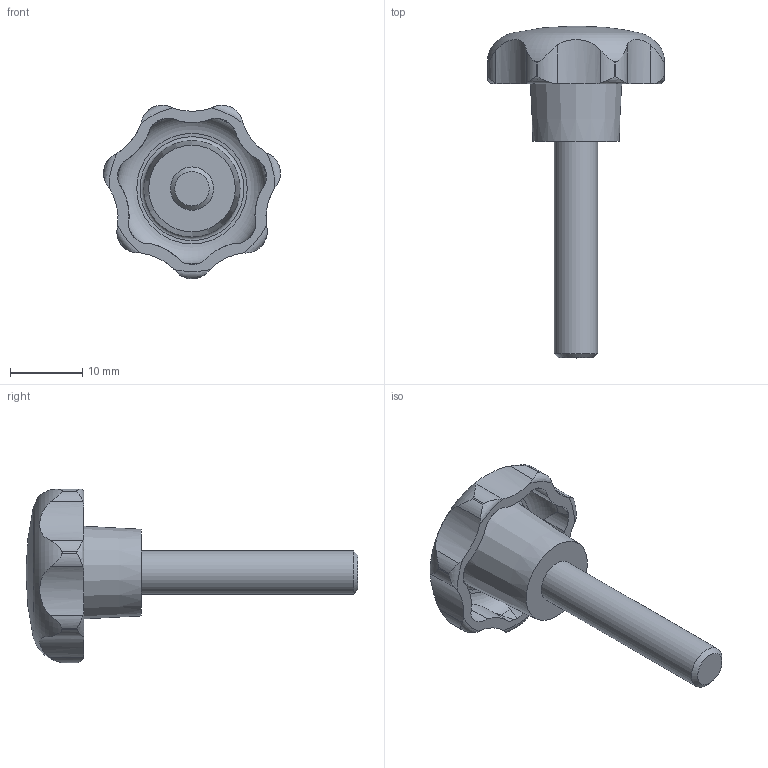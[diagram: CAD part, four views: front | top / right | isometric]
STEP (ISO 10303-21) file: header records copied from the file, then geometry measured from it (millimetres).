
FILE_DESCRIPTION( ( 'STEP AP203' ), '1' );
FILE_NAME( 'C:/Temp/Ganter_Step_05_03_2020/data/2_2/gn_6336_4/gn_6336_4_st/Star knob GN 6336.4-ST-25-M6-30.stp', '2020-03-05T12:07:17', ( 'License CC BY-ND 4.0' ), ( 'CADENAS' ), ' ', 'PARTsolutions', ' ' );
FILE_SCHEMA( ( 'CONFIG_CONTROL_DESIGN' ) );
Length unit declared in the file: millimetre
Products named in the file (1): _Star knob GN 6336.4-ST-25-M6-30
Bounding box: 24.52 x 46 x 24.06 mm (x, y, z)
Volume: 3973.5 mm3; surface area: 2578.3 mm2
Topology: 1 solids, 1 shells, 74 faces, 209 edges, 138 vertices
Faces by surface type: cylinder 50, torus 10, cone 10, plane 3, sphere 1
Full cylindrical faces by diameter (mm): 6 x1
Entity records: 3129 total; most frequent: CARTESIAN_POINT 1317, ORIENTED_EDGE 394, DIRECTION 336, EDGE_CURVE 197, AXIS2_PLACEMENT_3D 147, VERTEX_POINT 135, EDGE_LOOP 83, B_SPLINE_CURVE_WITH_KNOTS 83
